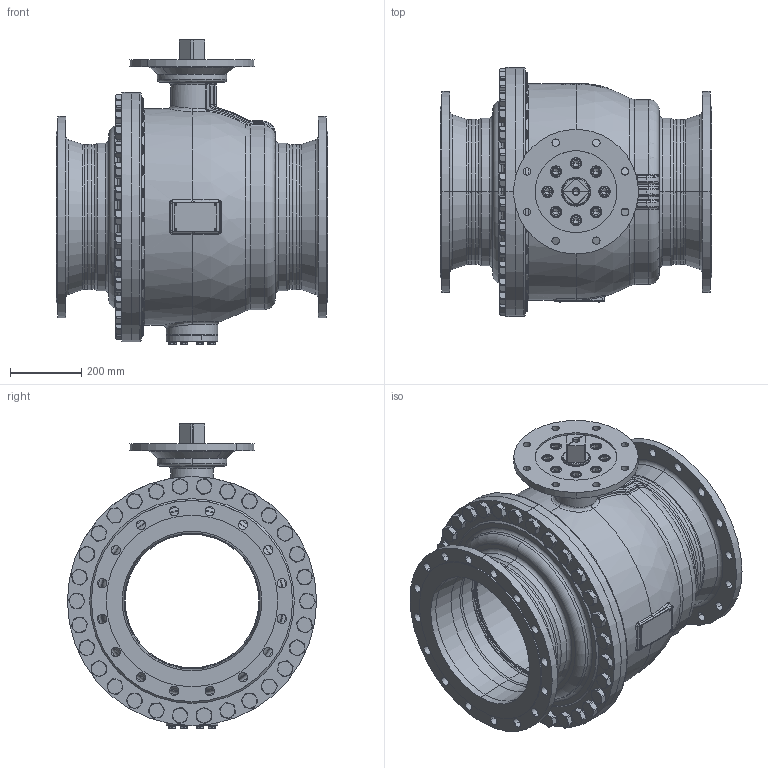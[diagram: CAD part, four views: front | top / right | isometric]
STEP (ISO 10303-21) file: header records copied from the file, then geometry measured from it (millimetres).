
FILE_DESCRIPTION((''),'2;1');
FILE_NAME('KHI-F_400_PN010-F30-4_SW0001','2026-02-05T16:33:14',('fischerkl'),('KLINGER'),'CREO PARAMETRIC BY PTC INC, 2023014','CREO PARAMETRIC BY PTC INC, 2023014','');
FILE_SCHEMA(('CONFIG_CONTROL_DESIGN'));
Products named in the file (1): KHI-F_400_PN010-F30-4_SW0001
Bounding box: 762 x 700 x 858.3 mm (x, y, z)
Volume: 51425389.9 mm3; surface area: 6744525.8 mm2
Topology: 1 solids, 4 shells, 3548 faces, 8934 edges, 5577 vertices
Faces by surface type: plane 1754, cylinder 849, cone 508, torus 307, bspline 99, sphere 31
Entity records: 151905 total; most frequent: CARTESIAN_POINT 67490, ORIENTED_EDGE 17816, DIRECTION 17489, EDGE_CURVE 8908, AXIS2_PLACEMENT_3D 6715, VERTEX_POINT 5577, VECTOR 4059, LINE 4059
